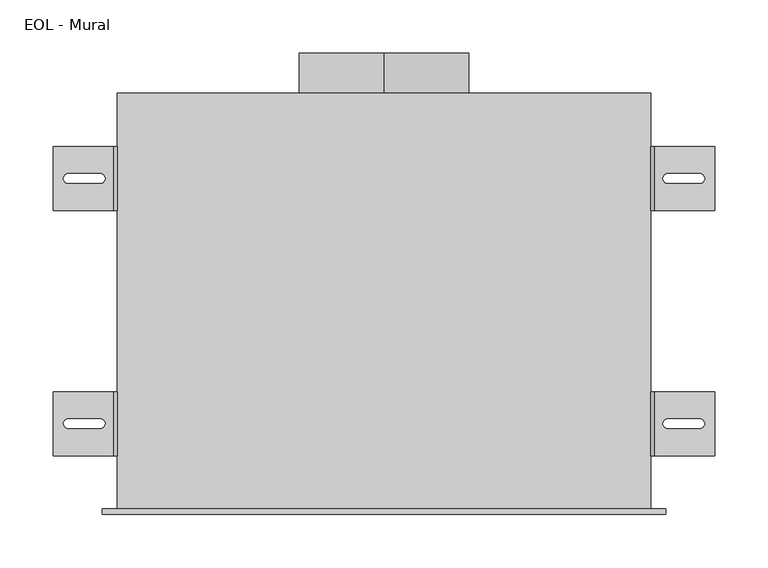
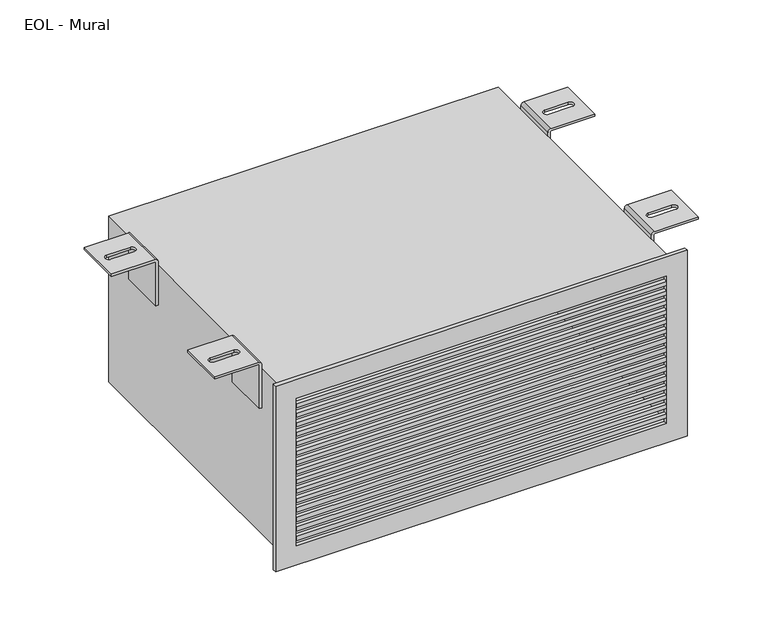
"""IFC4 building model written with IfcOpenShell, lengths in millimetres: air terminal geometry, EOL - Mural : EOL-M160-500x225-2."""

from ifc_helpers import new_model, si_unit, point, frame, origin, origin_2d, place, context, project, spatial, polyline, circle_curve, ellipse_curve, trimmed, segment, composite_curve, outline, extrude, source, transform, mapped, element, save
from ifc_brep_helpers import plane_surface, cylinder_surface, revolved_surface, extruded_surface, advanced_brep


def eol_mural_bbadc28e(model_context):
    return source(origin(), model_context, "Body", "SolidModel", [
        advanced_brep(
        [(254.0013366, 110.0, 121.5), (310.0, 110.0, 121.5), (310.0, 110.0, 118.5), (254.0, 110.0, 118.5), (253.0, 110.0, 117.5), (253.0, 110.0, 58.5), (250.0, 110.0, 58.5), (250.0, 110.0, 117.4986634), (254.0013366, 50.0, 121.5), (250.0, 50.0, 117.4986634), (250.0, 50.0, 58.5), (253.0, 50.0, 58.5), (253.0, 50.0, 117.5), (254.0, 50.0, 118.5), (310.0, 50.0, 118.5), (310.0, 50.0, 121.5), (296.0287952, 75.4804328, 121.5), (266.0287952, 75.4804328, 121.5), (266.0287952, 84.4804328, 121.5), (296.0287952, 84.4804328, 121.5), (266.0287952, 75.4804328, 118.5), (296.0287952, 75.4804328, 118.5), (296.0287952, 84.4804328, 118.5), (266.0287952, 84.4804328, 118.5)],
        [
            (0, 1),
            (1, 2),
            (2, 3),
            (3, 4, circle_curve(frame((254.0, 110.0, 117.5), z_axis=(0.0, -1.0, 0.0), x_axis=(-1.0000000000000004, 0.0, 0.0)), 1.0)),
            (4, 5),
            (5, 6),
            (6, 7),
            (7, 0, circle_curve(frame((254.0013366, 110.0, 117.4986634), z_axis=(0.0, 1.0, 0.0), x_axis=(-1.0000000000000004, 0.0, 0.0)), 4.0013366)),
            (8, 9, circle_curve(frame((254.0013366, 50.0, 117.4986634), z_axis=(0.0, -1.0, 0.0), x_axis=(-1.0000000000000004, 0.0, 0.0)), 4.0013366)),
            (9, 10),
            (10, 11),
            (11, 12),
            (12, 13, circle_curve(frame((254.0, 50.0, 117.5), z_axis=(0.0, 1.0, 0.0), x_axis=(-1.0000000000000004, 0.0, 0.0)), 1.0)),
            (13, 14),
            (14, 15),
            (15, 8),
            (0, 8),
            (15, 1),
            (16, 17),
            (17, 18, circle_curve(frame((266.0287952, 79.9804328, 121.5), z_axis=(0.0, 0.0, -1.0), x_axis=(0.0, -1.0, 0.0)), 4.5)),
            (18, 19),
            (19, 16, circle_curve(frame((296.0287952, 79.9804328, 121.5), z_axis=(0.0, 0.0, -1.0), x_axis=(0.0, -1.0, 0.0)), 4.5)),
            (14, 2),
            (13, 3),
            (20, 21),
            (21, 22, ellipse_curve(frame((296.0287952, 79.9804328, 118.5), z_axis=(0.0, 0.0, 1.0), x_axis=(0.0, -1.0, 0.0)), 4.5, 4.5)),
            (22, 23),
            (23, 20, ellipse_curve(frame((266.0287952, 79.9804328, 118.5), z_axis=(0.0, 0.0, 1.0), x_axis=(0.0, -1.0, 0.0)), 4.5, 4.5)),
            (12, 4),
            (11, 5),
            (10, 6),
            (9, 7),
            (16, 21),
            (20, 17),
            (19, 22),
            (18, 23),
        ],
        [
            plane_surface(frame((310.0, 110.0, 121.5), z_axis=(0.0, 1.0, 0.0), x_axis=(1.0, 0.0, 0.0))),
            plane_surface(frame((310.0, 50.0, 121.5), z_axis=(0.0, -1.0, 0.0), x_axis=(-1.0, 0.0, 0.0))),
            plane_surface(frame((254.0013366, 110.0, 121.5), z_axis=(0.0, 0.0, 1.0), x_axis=(0.0, -1.0, 0.0))),
            plane_surface(frame((310.0, 110.0, 121.5), z_axis=(1.0, 0.0, 0.0), x_axis=(0.0, -1.0, 0.0))),
            plane_surface(frame((310.0, 110.0, 118.5), z_axis=(0.0, 0.0, -1.0), x_axis=(0.0, -1.0, 0.0))),
            revolved_surface(polyline([(253.0, 50.0, 117.5), (253.0, 110.00000000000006, 117.5)]), (254.0, 50.0, 117.5), (0.0, -1.0000000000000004, 0.0)),
            plane_surface(frame((253.0, 110.0, 117.5), z_axis=(1.0, 0.0, 0.0), x_axis=(0.0, -1.0, 0.0))),
            plane_surface(frame((253.0, 110.0, 58.5), z_axis=(0.0, 0.0, -1.0), x_axis=(0.0, -1.0, 0.0))),
            plane_surface(frame((250.0, 110.0, 58.5), z_axis=(-1.0, 0.0, 0.0), x_axis=(0.0, -1.0, 0.0))),
            cylinder_surface(frame((254.0013366, 50.0, 117.4986634), z_axis=(0.0, 1.0000000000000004, 0.0), x_axis=(-1.0000000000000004, 0.0, 0.0)), 4.0013366),
            plane_surface(frame((266.0287952, 75.4804328, 121.5), z_axis=(0.0, 1.0, 0.0), x_axis=(0.0, 0.0, -1.0))),
            extruded_surface(trimmed(ellipse_curve(frame((296.0287952, 79.9804328, 118.5), z_axis=(0.0, 0.0, 1.0), x_axis=(0.0, -1.0, 0.0)), 4.5, 4.5), [point((296.0287952, 75.4804328, 118.5))], [point((296.0287952, 84.4804328, 118.5))], True, "CARTESIAN"), (0.0, 0.0, -3.0), 3.0),
            plane_surface(frame((296.0287952, 84.4804328, 121.5), z_axis=(0.0, -1.0, 0.0), x_axis=(0.0, 0.0, -1.0))),
            extruded_surface(trimmed(ellipse_curve(frame((266.0287952, 79.9804328, 118.5), z_axis=(0.0, 0.0, 1.0), x_axis=(0.0, -1.0, 0.0)), 4.5, 4.5), [point((266.0287952, 84.4804328, 118.5))], [point((266.0287952, 75.4804328, 118.5))], True, "CARTESIAN"), (0.0, 0.0, -3.0), 3.0),
        ],
        [
            (0, [[1, 2, 3, 4, 5, 6, 7, 8]]),
            (1, [[9, 10, 11, 12, 13, 14, 15, 16]]),
            (2, [[-1, 17, -16, 18], [19, 20, 21, 22]]),
            (3, [[-2, -18, -15, 23]]),
            (4, [[-3, -23, -14, 24], [25, 26, 27, 28]]),
            (5, [[-4, -24, -13, 29]]),
            (6, [[-5, -29, -12, 30]]),
            (7, [[-6, -30, -11, 31]]),
            (8, [[-7, -31, -10, 32]]),
            (9, [[-8, -32, -9, -17]]),
            (10, [[33, -25, 34, -19]]),
            (11, [[-33, -22, 35, -26]]),
            (12, [[-35, -21, 36, -27]]),
            (13, [[-34, -28, -36, -20]]),
        ],
    ),
        advanced_brep(
        [(254.0013366, 340.0, 121.5), (310.0, 340.0, 121.5), (310.0, 340.0, 118.5), (254.0, 340.0, 118.5), (253.0, 340.0, 117.5), (253.0, 340.0, 58.5), (250.0, 340.0, 58.5), (250.0, 340.0, 117.4986634), (254.0013366, 280.0, 121.5), (250.0, 280.0, 117.4986634), (250.0, 280.0, 58.5), (253.0, 280.0, 58.5), (253.0, 280.0, 117.5), (254.0, 280.0, 118.5), (310.0, 280.0, 118.5), (310.0, 280.0, 121.5), (296.0287952, 305.4804328, 121.5), (266.0287952, 305.4804328, 121.5), (266.0287952, 314.4804328, 121.5), (296.0287952, 314.4804328, 121.5), (266.0287952, 305.4804328, 118.5), (296.0287952, 305.4804328, 118.5), (296.0287952, 314.4804328, 118.5), (266.0287952, 314.4804328, 118.5)],
        [
            (0, 1),
            (1, 2),
            (2, 3),
            (3, 4, circle_curve(frame((254.0, 340.0, 117.5), z_axis=(0.0, -1.0, 0.0), x_axis=(-1.0, 0.0, 0.0)), 1.0)),
            (4, 5),
            (5, 6),
            (6, 7),
            (7, 0, circle_curve(frame((254.0013366, 340.0, 117.4986634), z_axis=(0.0, 1.0, 0.0), x_axis=(-1.0, 0.0, 0.0)), 4.0013366)),
            (8, 9, circle_curve(frame((254.0013366, 280.0, 117.4986634), z_axis=(0.0, -1.0, 0.0), x_axis=(-1.0, 0.0, 0.0)), 4.0013366)),
            (9, 10),
            (10, 11),
            (11, 12),
            (12, 13, circle_curve(frame((254.0, 280.0, 117.5), z_axis=(0.0, 1.0, 0.0), x_axis=(-1.0, 0.0, 0.0)), 1.0)),
            (13, 14),
            (14, 15),
            (15, 8),
            (0, 8),
            (15, 1),
            (16, 17),
            (17, 18, circle_curve(frame((266.0287952, 309.9804328, 121.5), z_axis=(0.0, 0.0, -1.0), x_axis=(0.0, -1.0, 0.0)), 4.5)),
            (18, 19),
            (19, 16, circle_curve(frame((296.0287952, 309.9804328, 121.5), z_axis=(0.0, 0.0, -1.0), x_axis=(0.0, -1.0, 0.0)), 4.5)),
            (14, 2),
            (13, 3),
            (20, 21),
            (21, 22, ellipse_curve(frame((296.0287952, 309.9804328, 118.5), z_axis=(0.0, 0.0, 1.0), x_axis=(0.0, -1.0, 0.0)), 4.5, 4.5)),
            (22, 23),
            (23, 20, ellipse_curve(frame((266.0287952, 309.9804328, 118.5), z_axis=(0.0, 0.0, 1.0), x_axis=(0.0, -1.0, 0.0)), 4.5, 4.5)),
            (12, 4),
            (11, 5),
            (10, 6),
            (9, 7),
            (16, 21),
            (20, 17),
            (19, 22),
            (18, 23),
        ],
        [
            plane_surface(frame((310.0, 340.0, 121.5), z_axis=(0.0, 1.0, 0.0), x_axis=(1.0, 0.0, 0.0))),
            plane_surface(frame((310.0, 280.0, 121.5), z_axis=(0.0, -1.0, 0.0), x_axis=(-1.0, 0.0, 0.0))),
            plane_surface(frame((254.0013366, 340.0, 121.5), z_axis=(0.0, 0.0, 1.0), x_axis=(0.0, -1.0, 0.0))),
            plane_surface(frame((310.0, 340.0, 121.5), z_axis=(1.0, 0.0, 0.0), x_axis=(0.0, -1.0, 0.0))),
            plane_surface(frame((310.0, 340.0, 118.5), z_axis=(0.0, 0.0, -1.0), x_axis=(0.0, -1.0, 0.0))),
            revolved_surface(polyline([(253.0, 280.0, 117.5), (253.0, 340.0, 117.5)]), (254.0, 280.0, 117.5), (0.0, -1.0, 0.0)),
            plane_surface(frame((253.0, 340.0, 117.5), z_axis=(1.0, 0.0, 0.0), x_axis=(0.0, -1.0, 0.0))),
            plane_surface(frame((253.0, 340.0, 58.5), z_axis=(0.0, 0.0, -1.0), x_axis=(0.0, -1.0, 0.0))),
            plane_surface(frame((250.0, 340.0, 58.5), z_axis=(-1.0, 0.0, 0.0), x_axis=(0.0, -1.0, 0.0))),
            cylinder_surface(frame((254.0013366, 280.0, 117.4986634), z_axis=(0.0, 1.0, 0.0), x_axis=(-1.0, 0.0, 0.0)), 4.0013366),
            plane_surface(frame((266.0287952, 305.4804328, 121.5), z_axis=(0.0, 1.0, 0.0), x_axis=(0.0, 0.0, -1.0))),
            extruded_surface(trimmed(ellipse_curve(frame((296.0287952, 309.9804328, 118.5), z_axis=(0.0, 0.0, 1.0), x_axis=(0.0, -1.0, 0.0)), 4.5, 4.5), [point((296.0287952, 305.4804328, 118.5))], [point((296.0287952, 314.4804328, 118.5))], True, "CARTESIAN"), (0.0, 0.0, -3.0), 3.0),
            plane_surface(frame((296.0287952, 314.4804328, 121.5), z_axis=(0.0, -1.0, 0.0), x_axis=(0.0, 0.0, -1.0))),
            extruded_surface(trimmed(ellipse_curve(frame((266.0287952, 309.9804328, 118.5), z_axis=(0.0, 0.0, 1.0), x_axis=(0.0, -1.0, 0.0)), 4.5, 4.5), [point((266.0287952, 314.4804328, 118.5))], [point((266.0287952, 305.4804328, 118.5))], True, "CARTESIAN"), (0.0, 0.0, -3.0), 3.0),
        ],
        [
            (0, [[1, 2, 3, 4, 5, 6, 7, 8]]),
            (1, [[9, 10, 11, 12, 13, 14, 15, 16]]),
            (2, [[-1, 17, -16, 18], [19, 20, 21, 22]]),
            (3, [[-2, -18, -15, 23]]),
            (4, [[-3, -23, -14, 24], [25, 26, 27, 28]]),
            (5, [[-4, -24, -13, 29]]),
            (6, [[-5, -29, -12, 30]]),
            (7, [[-6, -30, -11, 31]]),
            (8, [[-7, -31, -10, 32]]),
            (9, [[-8, -32, -9, -17]]),
            (10, [[33, -25, 34, -19]]),
            (11, [[-33, -22, 35, -26]]),
            (12, [[-35, -21, 36, -27]]),
            (13, [[-34, -28, -36, -20]]),
        ],
    ),
        advanced_brep(
        [(-254.0013366, 50.0, 121.5), (-310.0, 50.0, 121.5), (-310.0, 50.0, 118.5), (-254.0, 50.0, 118.5), (-253.0, 50.0, 117.5), (-253.0, 50.0, 58.5), (-250.0, 50.0, 58.5), (-250.0, 50.0, 117.4986634), (-254.0013366, 110.0, 121.5), (-250.0, 110.0, 117.4986634), (-250.0, 110.0, 58.5), (-253.0, 110.0, 58.5), (-253.0, 110.0, 117.5), (-254.0, 110.0, 118.5), (-310.0, 110.0, 118.5), (-310.0, 110.0, 121.5), (-296.0287952, 84.5195672, 121.5), (-266.0287952, 84.5195672, 121.5), (-266.0287952, 75.5195672, 121.5), (-296.0287952, 75.5195672, 121.5), (-266.0287952, 84.5195672, 118.5), (-296.0287952, 84.5195672, 118.5), (-296.0287952, 75.5195672, 118.5), (-266.0287952, 75.5195672, 118.5)],
        [
            (0, 1),
            (1, 2),
            (2, 3),
            (3, 4, circle_curve(frame((-254.0, 50.0, 117.5), z_axis=(0.0, 1.0, 0.0), x_axis=(1.0, 0.0, 0.0)), 1.0)),
            (4, 5),
            (5, 6),
            (6, 7),
            (7, 0, circle_curve(frame((-254.0013366, 50.0, 117.4986634), z_axis=(0.0, -1.0, 0.0), x_axis=(1.0, 0.0, 0.0)), 4.0013366)),
            (8, 9, circle_curve(frame((-254.0013366, 110.0, 117.4986634), z_axis=(0.0, 1.0, 0.0), x_axis=(1.0, 0.0, 0.0)), 4.0013366)),
            (9, 10),
            (10, 11),
            (11, 12),
            (12, 13, circle_curve(frame((-254.0, 110.0, 117.5), z_axis=(0.0, -1.0, 0.0), x_axis=(1.0, 0.0, 0.0)), 1.0)),
            (13, 14),
            (14, 15),
            (15, 8),
            (0, 8),
            (15, 1),
            (16, 17),
            (17, 18, circle_curve(frame((-266.0287952, 80.0195672, 121.5), z_axis=(0.0, 0.0, -1.0), x_axis=(0.0, 1.0, 0.0)), 4.5)),
            (18, 19),
            (19, 16, circle_curve(frame((-296.0287952, 80.0195672, 121.5), z_axis=(0.0, 0.0, -1.0), x_axis=(0.0, 1.0, 0.0)), 4.5)),
            (14, 2),
            (13, 3),
            (20, 21),
            (21, 22, ellipse_curve(frame((-296.0287952, 80.0195672, 118.5), z_axis=(0.0, 0.0, 1.0), x_axis=(0.0, 1.0, 0.0)), 4.5, 4.5)),
            (22, 23),
            (23, 20, ellipse_curve(frame((-266.0287952, 80.0195672, 118.5), z_axis=(0.0, 0.0, 1.0), x_axis=(0.0, 1.0, 0.0)), 4.5, 4.5)),
            (12, 4),
            (11, 5),
            (10, 6),
            (9, 7),
            (16, 21),
            (20, 17),
            (19, 22),
            (18, 23),
        ],
        [
            plane_surface(frame((-310.0, 50.0, 121.5), z_axis=(0.0, -1.0, 0.0), x_axis=(-1.0, 0.0, 0.0))),
            plane_surface(frame((-310.0, 110.0, 121.5), z_axis=(0.0, 1.0, 0.0), x_axis=(1.0, 0.0, 0.0))),
            plane_surface(frame((-254.0013366, 50.0, 121.5), z_axis=(0.0, 0.0, 1.0), x_axis=(0.0, 1.0, 0.0))),
            plane_surface(frame((-310.0, 50.0, 121.5), z_axis=(-1.0, 0.0, 0.0), x_axis=(0.0, 1.0, 0.0))),
            plane_surface(frame((-310.0, 50.0, 118.5), z_axis=(0.0, 0.0, -1.0), x_axis=(0.0, 1.0, 0.0))),
            revolved_surface(polyline([(-253.0, 110.0, 117.5), (-253.0, 50.0, 117.5)]), (-254.0, 110.0, 117.5), (0.0, 1.0, 0.0)),
            plane_surface(frame((-253.0, 50.0, 117.5), z_axis=(-1.0, 0.0, 0.0), x_axis=(0.0, 1.0, 0.0))),
            plane_surface(frame((-253.0, 50.0, 58.5), z_axis=(0.0, 0.0, -1.0), x_axis=(0.0, 1.0, 0.0))),
            plane_surface(frame((-250.0, 50.0, 58.5), z_axis=(1.0, 0.0, 0.0), x_axis=(0.0, 1.0, 0.0))),
            cylinder_surface(frame((-254.0013366, 110.0, 117.4986634), z_axis=(0.0, -1.0, 0.0), x_axis=(1.0, 0.0, 0.0)), 4.0013366),
            plane_surface(frame((-266.0287952, 84.5195672, 121.5), z_axis=(0.0, -1.0, 0.0), x_axis=(0.0, 0.0, -1.0))),
            extruded_surface(trimmed(ellipse_curve(frame((-296.0287952, 80.0195672, 118.5), z_axis=(0.0, 0.0, 1.0), x_axis=(0.0, 1.0, 0.0)), 4.5, 4.5), [point((-296.0287952, 84.5195672, 118.5))], [point((-296.0287952, 75.5195672, 118.5))], True, "CARTESIAN"), (0.0, 0.0, -3.0), 3.0),
            plane_surface(frame((-296.0287952, 75.5195672, 121.5), z_axis=(0.0, 1.0, 0.0), x_axis=(0.0, 0.0, -1.0))),
            extruded_surface(trimmed(ellipse_curve(frame((-266.0287952, 80.0195672, 118.5), z_axis=(0.0, 0.0, 1.0), x_axis=(0.0, 1.0, 0.0)), 4.5, 4.5), [point((-266.0287952, 75.5195672, 118.5))], [point((-266.0287952, 84.5195672, 118.5))], True, "CARTESIAN"), (0.0, 0.0, -3.0), 3.0),
        ],
        [
            (0, [[1, 2, 3, 4, 5, 6, 7, 8]]),
            (1, [[9, 10, 11, 12, 13, 14, 15, 16]]),
            (2, [[-1, 17, -16, 18], [19, 20, 21, 22]]),
            (3, [[-2, -18, -15, 23]]),
            (4, [[-3, -23, -14, 24], [25, 26, 27, 28]]),
            (5, [[-4, -24, -13, 29]]),
            (6, [[-5, -29, -12, 30]]),
            (7, [[-6, -30, -11, 31]]),
            (8, [[-7, -31, -10, 32]]),
            (9, [[-8, -32, -9, -17]]),
            (10, [[33, -25, 34, -19]]),
            (11, [[-33, -22, 35, -26]]),
            (12, [[-35, -21, 36, -27]]),
            (13, [[-34, -28, -36, -20]]),
        ],
    ),
        advanced_brep(
        [(-254.0013366, 280.0, 121.5), (-310.0, 280.0, 121.5), (-310.0, 280.0, 118.5), (-254.0, 280.0, 118.5), (-253.0, 280.0, 117.5), (-253.0, 280.0, 58.5), (-250.0, 280.0, 58.5), (-250.0, 280.0, 117.4986634), (-254.0013366, 340.0, 121.5), (-250.0, 340.0, 117.4986634), (-250.0, 340.0, 58.5), (-253.0, 340.0, 58.5), (-253.0, 340.0, 117.5), (-254.0, 340.0, 118.5), (-310.0, 340.0, 118.5), (-310.0, 340.0, 121.5), (-296.0287952, 314.5195672, 121.5), (-266.0287952, 314.5195672, 121.5), (-266.0287952, 305.5195672, 121.5), (-296.0287952, 305.5195672, 121.5), (-266.0287952, 314.5195672, 118.5), (-296.0287952, 314.5195672, 118.5), (-296.0287952, 305.5195672, 118.5), (-266.0287952, 305.5195672, 118.5)],
        [
            (0, 1),
            (1, 2),
            (2, 3),
            (3, 4, circle_curve(frame((-254.0, 280.0, 117.5), z_axis=(0.0, 1.0, 0.0), x_axis=(1.0, 0.0, 0.0)), 1.0)),
            (4, 5),
            (5, 6),
            (6, 7),
            (7, 0, circle_curve(frame((-254.0013366, 280.0, 117.4986634), z_axis=(0.0, -1.0, 0.0), x_axis=(1.0, 0.0, 0.0)), 4.0013366)),
            (8, 9, circle_curve(frame((-254.0013366, 340.0, 117.4986634), z_axis=(0.0, 1.0, 0.0), x_axis=(1.0, 0.0, 0.0)), 4.0013366)),
            (9, 10),
            (10, 11),
            (11, 12),
            (12, 13, circle_curve(frame((-254.0, 340.0, 117.5), z_axis=(0.0, -1.0, 0.0), x_axis=(1.0, 0.0, 0.0)), 1.0)),
            (13, 14),
            (14, 15),
            (15, 8),
            (0, 8),
            (15, 1),
            (16, 17),
            (17, 18, circle_curve(frame((-266.0287952, 310.0195672, 121.5), z_axis=(0.0, 0.0, -1.0), x_axis=(0.0, 1.0, 0.0)), 4.5)),
            (18, 19),
            (19, 16, circle_curve(frame((-296.0287952, 310.0195672, 121.5), z_axis=(0.0, 0.0, -1.0), x_axis=(0.0, 1.0, 0.0)), 4.5)),
            (14, 2),
            (13, 3),
            (20, 21),
            (21, 22, ellipse_curve(frame((-296.0287952, 310.0195672, 118.5), z_axis=(0.0, 0.0, 1.0), x_axis=(0.0, 1.0, 0.0)), 4.5, 4.5)),
            (22, 23),
            (23, 20, ellipse_curve(frame((-266.0287952, 310.0195672, 118.5), z_axis=(0.0, 0.0, 1.0), x_axis=(0.0, 1.0, 0.0)), 4.5, 4.5)),
            (12, 4),
            (11, 5),
            (10, 6),
            (9, 7),
            (16, 21),
            (20, 17),
            (19, 22),
            (18, 23),
        ],
        [
            plane_surface(frame((-310.0, 280.0, 121.5), z_axis=(0.0, -1.0, 0.0), x_axis=(-1.0, 0.0, 0.0))),
            plane_surface(frame((-310.0, 340.0, 121.5), z_axis=(0.0, 1.0, 0.0), x_axis=(1.0, 0.0, 0.0))),
            plane_surface(frame((-254.0013366, 280.0, 121.5), z_axis=(0.0, 0.0, 1.0), x_axis=(0.0, 1.0, 0.0))),
            plane_surface(frame((-310.0, 280.0, 121.5), z_axis=(-1.0, 0.0, 0.0), x_axis=(0.0, 1.0, 0.0))),
            plane_surface(frame((-310.0, 280.0, 118.5), z_axis=(0.0, 0.0, -1.0), x_axis=(0.0, 1.0, 0.0))),
            revolved_surface(polyline([(-253.0, 340.0, 117.5), (-253.0, 280.0, 117.5)]), (-254.0, 340.0, 117.5), (0.0, 1.0, 0.0)),
            plane_surface(frame((-253.0, 280.0, 117.5), z_axis=(-1.0, 0.0, 0.0), x_axis=(0.0, 1.0, 0.0))),
            plane_surface(frame((-253.0, 280.0, 58.5), z_axis=(0.0, 0.0, -1.0), x_axis=(0.0, 1.0, 0.0))),
            plane_surface(frame((-250.0, 280.0, 58.5), z_axis=(1.0, 0.0, 0.0), x_axis=(0.0, 1.0, 0.0))),
            cylinder_surface(frame((-254.0013366, 340.0, 117.4986634), z_axis=(0.0, -1.0, 0.0), x_axis=(1.0, 0.0, 0.0)), 4.0013366),
            plane_surface(frame((-266.0287952, 314.5195672, 121.5), z_axis=(0.0, -1.0, 0.0), x_axis=(0.0, 0.0, -1.0))),
            extruded_surface(trimmed(ellipse_curve(frame((-296.0287952, 310.0195672, 118.5), z_axis=(0.0, 0.0, 1.0), x_axis=(0.0, 1.0, 0.0)), 4.5, 4.5), [point((-296.0287952, 314.5195672, 118.5))], [point((-296.0287952, 305.5195672, 118.5))], True, "CARTESIAN"), (0.0, 0.0, -3.0), 3.0),
            plane_surface(frame((-296.0287952, 305.5195672, 121.5), z_axis=(0.0, 1.0, 0.0), x_axis=(0.0, 0.0, -1.0))),
            extruded_surface(trimmed(ellipse_curve(frame((-266.0287952, 310.0195672, 118.5), z_axis=(0.0, 0.0, 1.0), x_axis=(0.0, 1.0, 0.0)), 4.5, 4.5), [point((-266.0287952, 305.5195672, 118.5))], [point((-266.0287952, 314.5195672, 118.5))], True, "CARTESIAN"), (0.0, 0.0, -3.0), 3.0),
        ],
        [
            (0, [[1, 2, 3, 4, 5, 6, 7, 8]]),
            (1, [[9, 10, 11, 12, 13, 14, 15, 16]]),
            (2, [[-1, 17, -16, 18], [19, 20, 21, 22]]),
            (3, [[-2, -18, -15, 23]]),
            (4, [[-3, -23, -14, 24], [25, 26, 27, 28]]),
            (5, [[-4, -24, -13, 29]]),
            (6, [[-5, -29, -12, 30]]),
            (7, [[-6, -30, -11, 31]]),
            (8, [[-7, -31, -10, 32]]),
            (9, [[-8, -32, -9, -17]]),
            (10, [[33, -25, 34, -19]]),
            (11, [[-33, -22, 35, -26]]),
            (12, [[-35, -21, 36, -27]]),
            (13, [[-34, -28, -36, -20]]),
        ],
    ),
        extrude(outline(composite_curve([segment(trimmed(circle_curve(origin_2d(), 80.0), [point((-80.0, 0.0))], [point((80.0, 0.0))], False, "CARTESIAN"), True, "CONTINUOUS"), segment(trimmed(circle_curve(origin_2d(), 80.0), [point((80.0, 0.0))], [point((-80.0, 0.0))], False, "CARTESIAN"), True, "CONTINUOUS")], self_intersect=False), holes=[composite_curve([segment(trimmed(circle_curve(origin_2d(), 79.0), [point((0.0, 79.0))], [point((0.0, -79.0))], True, "CARTESIAN"), True, "CONTINUOUS"), segment(trimmed(circle_curve(origin_2d(), 79.0), [point((0.0, -79.0))], [point((0.0, 79.0))], True, "CARTESIAN"), True, "CONTINUOUS")], self_intersect=False)]), frame((0.0, 390.0, 0.0), z_axis=(0.0, 1.0, 0.0), x_axis=(0.0, 0.0, 1.0)), (0.0, 0.0, 1.0), 37.5),
        extrude(outline(polyline([(237.5, 0.0), (237.5, -5.0), (-237.5, -5.0), (-237.5, 0.0), (237.5, 0.0)])), frame((0.0, 0.0, 87.15), z_axis=(0.0, 0.0, 1.0), x_axis=(1.0, 0.0, 0.0)), (0.0, 0.0, 1.0), 5.6),
        extrude(outline(polyline([(237.5, 0.0), (237.5, -5.0), (-237.5, -5.0), (-237.5, 0.0), (237.5, 0.0)])), frame((0.0, 0.0, 74.3), z_axis=(0.0, 0.0, 1.0), x_axis=(1.0, 0.0, 0.0)), (0.0, 0.0, 1.0), 5.6),
        extrude(outline(polyline([(237.5, 0.0), (237.5, -5.0), (-237.5, -5.0), (-237.5, 0.0), (237.5, 0.0)])), frame((0.0, 0.0, 61.45), z_axis=(0.0, 0.0, 1.0), x_axis=(1.0, 0.0, 0.0)), (0.0, 0.0, 1.0), 5.6),
        extrude(outline(polyline([(237.5, 0.0), (237.5, -5.0), (-237.5, -5.0), (-237.5, 0.0), (237.5, 0.0)])), frame((0.0, 0.0, 48.6), z_axis=(0.0, 0.0, 1.0), x_axis=(1.0, 0.0, 0.0)), (0.0, 0.0, 1.0), 5.6),
        extrude(outline(polyline([(237.5, 0.0), (237.5, -5.0), (-237.5, -5.0), (-237.5, 0.0), (237.5, 0.0)])), frame((0.0, 0.0, 35.75), z_axis=(0.0, 0.0, 1.0), x_axis=(1.0, 0.0, 0.0)), (0.0, 0.0, 1.0), 5.6),
        extrude(outline(polyline([(237.5, 0.0), (237.5, -5.0), (-237.5, -5.0), (-237.5, 0.0), (237.5, 0.0)])), frame((0.0, 0.0, 22.9), z_axis=(0.0, 0.0, 1.0), x_axis=(1.0, 0.0, 0.0)), (0.0, 0.0, 1.0), 5.6),
        extrude(outline(polyline([(237.5, 0.0), (237.5, -5.0), (-237.5, -5.0), (-237.5, 0.0), (237.5, 0.0)])), frame((0.0, 0.0, 10.05), z_axis=(0.0, 0.0, 1.0), x_axis=(1.0, 0.0, 0.0)), (0.0, 0.0, 1.0), 5.6),
        extrude(outline(polyline([(237.5, 0.0), (237.5, -5.0), (-237.5, -5.0), (-237.5, 0.0), (237.5, 0.0)])), frame((0.0, 0.0, -2.8), z_axis=(0.0, 0.0, 1.0), x_axis=(1.0, 0.0, 0.0)), (0.0, 0.0, 1.0), 5.6),
        extrude(outline(polyline([(237.5, 0.0), (237.5, -5.0), (-237.5, -5.0), (-237.5, 0.0), (237.5, 0.0)])), frame((0.0, 0.0, -15.65), z_axis=(0.0, 0.0, 1.0), x_axis=(1.0, 0.0, 0.0)), (0.0, 0.0, 1.0), 5.6),
        extrude(outline(polyline([(237.5, 0.0), (237.5, -5.0), (-237.5, -5.0), (-237.5, 0.0), (237.5, 0.0)])), frame((0.0, 0.0, -28.5), z_axis=(0.0, 0.0, 1.0), x_axis=(1.0, 0.0, 0.0)), (0.0, 0.0, 1.0), 5.6),
        extrude(outline(polyline([(237.5, 0.0), (237.5, -5.0), (-237.5, -5.0), (-237.5, 0.0), (237.5, 0.0)])), frame((0.0, 0.0, -41.35), z_axis=(0.0, 0.0, 1.0), x_axis=(1.0, 0.0, 0.0)), (0.0, 0.0, 1.0), 5.6),
        extrude(outline(polyline([(237.5, 0.0), (237.5, -5.0), (-237.5, -5.0), (-237.5, 0.0), (237.5, 0.0)])), frame((0.0, 0.0, -54.2), z_axis=(0.0, 0.0, 1.0), x_axis=(1.0, 0.0, 0.0)), (0.0, 0.0, 1.0), 5.6),
        extrude(outline(polyline([(237.5, 0.0), (237.5, -5.0), (-237.5, -5.0), (-237.5, 0.0), (237.5, 0.0)])), frame((0.0, 0.0, -67.05), z_axis=(0.0, 0.0, 1.0), x_axis=(1.0, 0.0, 0.0)), (0.0, 0.0, 1.0), 5.6),
        extrude(outline(polyline([(237.5, 0.0), (237.5, -5.0), (-237.5, -5.0), (-237.5, 0.0), (237.5, 0.0)])), frame((0.0, 0.0, -79.9), z_axis=(0.0, 0.0, 1.0), x_axis=(1.0, 0.0, 0.0)), (0.0, 0.0, 1.0), 5.6),
        extrude(outline(polyline([(237.5, 0.0), (237.5, -5.0), (-237.5, -5.0), (-237.5, 0.0), (237.5, 0.0)])), frame((0.0, 0.0, -92.75), z_axis=(0.0, 0.0, 1.0), x_axis=(1.0, 0.0, 0.0)), (0.0, 0.0, 1.0), 5.6),
        extrude(outline(polyline([(126.0, 264.0), (126.0, -264.0), (-126.0, -264.0), (-126.0, 264.0), (126.0, 264.0)]), holes=[polyline([(100.0, 237.5), (-100.0, 237.5), (-100.0, -237.5), (100.0, -237.5), (100.0, 237.5)])]), frame((0.0, -5.0, 0.0), z_axis=(0.0, 1.0, 0.0), x_axis=(0.0, 0.0, 1.0)), (0.0, 0.0, 1.0), 5.0),
        advanced_brep(
        [(250.0, 390.0, 112.5), (-250.0, 390.0, 112.5), (-250.0, 0.0, 112.5), (250.0, 0.0, 112.5), (250.0, 390.0, -112.5), (250.0, 0.0, -112.5), (-250.0, 0.0, -112.5), (-250.0, 390.0, -112.5), (-79.0, 390.0, 0.0), (79.0, 390.0, 0.0), (-245.0, 0.0, 107.5), (245.0, 0.0, 107.5), (245.0, 0.0, -107.5), (-245.0, 0.0, -107.5), (245.0, 385.0, 107.5), (-245.0, 385.0, 107.5), (245.0, 385.0, -107.5), (-245.0, 385.0, -107.5), (79.0, 385.0, 0.0), (-79.0, 385.0, 0.0)],
        [
            (0, 1),
            (1, 2),
            (2, 3),
            (3, 0),
            (4, 5),
            (5, 6),
            (6, 7),
            (7, 4),
            (0, 4),
            (7, 1),
            (8, 9, circle_curve(frame((0.0, 390.0, 0.0), z_axis=(0.0, -1.0, 0.0), x_axis=(1.0, 0.0, 0.0)), 79.0)),
            (9, 8, circle_curve(frame((0.0, 390.0, 0.0), z_axis=(0.0, -1.0, 0.0), x_axis=(1.0, 0.0, 0.0)), 79.0)),
            (6, 2),
            (5, 3),
            (10, 11),
            (11, 12),
            (12, 13),
            (13, 10),
            (14, 11),
            (10, 15),
            (15, 14),
            (16, 17),
            (17, 13),
            (12, 16),
            (15, 17),
            (16, 14),
            (18, 19, circle_curve(frame((0.0, 385.0, 0.0), z_axis=(0.0, 1.0, 0.0), x_axis=(1.0, 0.0, 0.0)), 79.0)),
            (19, 18, circle_curve(frame((0.0, 385.0, 0.0), z_axis=(0.0, 1.0, 0.0), x_axis=(1.0, 0.0, 0.0)), 79.0)),
            (8, 19),
            (18, 9),
        ],
        [
            plane_surface(frame((-250.0, 390.0, 112.5), z_axis=(0.0, 0.0, 1.0), x_axis=(-1.0, 0.0, 0.0))),
            plane_surface(frame((-250.0, 390.0, -112.5), z_axis=(0.0, 0.0, -1.0), x_axis=(1.0, 0.0, 0.0))),
            plane_surface(frame((250.0, 390.0, 112.5), z_axis=(0.0, 1.0, 0.0), x_axis=(0.0, 0.0, -1.0))),
            plane_surface(frame((-250.0, 390.0, 112.5), z_axis=(-1.0, 0.0, 0.0), x_axis=(0.0, 0.0, -1.0))),
            plane_surface(frame((-250.0, 0.0, 112.5), z_axis=(0.0, -1.0, 0.0), x_axis=(0.0, 0.0, -1.0))),
            plane_surface(frame((250.0, 0.0, 112.5), z_axis=(1.0, 0.0, 0.0), x_axis=(0.0, 0.0, -1.0))),
            plane_surface(frame((-245.0, 385.0, 107.5), z_axis=(0.0, 0.0, -1.0), x_axis=(-1.0, 0.0, 0.0))),
            plane_surface(frame((-245.0, 385.0, -107.5), z_axis=(0.0, 0.0, 1.0), x_axis=(1.0, 0.0, 0.0))),
            plane_surface(frame((245.0, 385.0, 107.5), z_axis=(0.0, -1.0, 0.0), x_axis=(0.0, 0.0, -1.0))),
            plane_surface(frame((-245.0, 385.0, 107.5), z_axis=(1.0, 0.0, 0.0), x_axis=(0.0, 0.0, -1.0))),
            plane_surface(frame((245.0, 0.0, 107.5), z_axis=(-1.0, 0.0, 0.0), x_axis=(0.0, 0.0, -1.0))),
            revolved_surface(polyline([(79.0, 385.0, 0.0), (79.0, 390.0, 0.0)]), (0.0, 427.5, 0.0), (0.0, -1.0, 0.0)),
        ],
        [
            (0, [[1, 2, 3, 4]]),
            (1, [[5, 6, 7, 8]]),
            (2, [[-1, 9, -8, 10], [11, 12]]),
            (3, [[-2, -10, -7, 13]]),
            (4, [[-3, -13, -6, 14], [15, 16, 17, 18]]),
            (5, [[-4, -14, -5, -9]]),
            (6, [[19, -15, 20, 21]]),
            (7, [[22, 23, -17, 24]]),
            (8, [[-21, 25, -22, 26], [27, 28]]),
            (9, [[-20, -18, -23, -25]]),
            (10, [[-19, -26, -24, -16]]),
            (11, [[29, -27, 30, -11]]),
            (11, [[-29, -12, -30, -28]]),
        ],
    ),
    ])


if __name__ == "__main__":
    model = new_model("IFC4")
    model_context = context("Model", 3, world=origin())
    ifc_project = project(units=[si_unit("LENGTHUNIT", "METRE", prefix="MILLI")], contexts=[model_context])
    site = spatial("IfcSite", under=ifc_project)
    building = spatial("IfcBuilding", under=site)
    placement = place(None, origin())
    eol_mural_shape = eol_mural_bbadc28e(model_context)
    element("IfcAirTerminal", 1, ObjectType="EOL - Mural : EOL-M160-500x225-2", at=placement, inside=building, context=model_context, shape_type="MappedRepresentation", body=[
        mapped(eol_mural_shape, transform((0.0, 0.0, 0.0), x_axis=(1.0, 0.0, 0.0), y_axis=(0.0, 1.0, 0.0), z_axis=(0.0, 0.0, 1.0))),
    ])
    save(model, "model.ifc")
